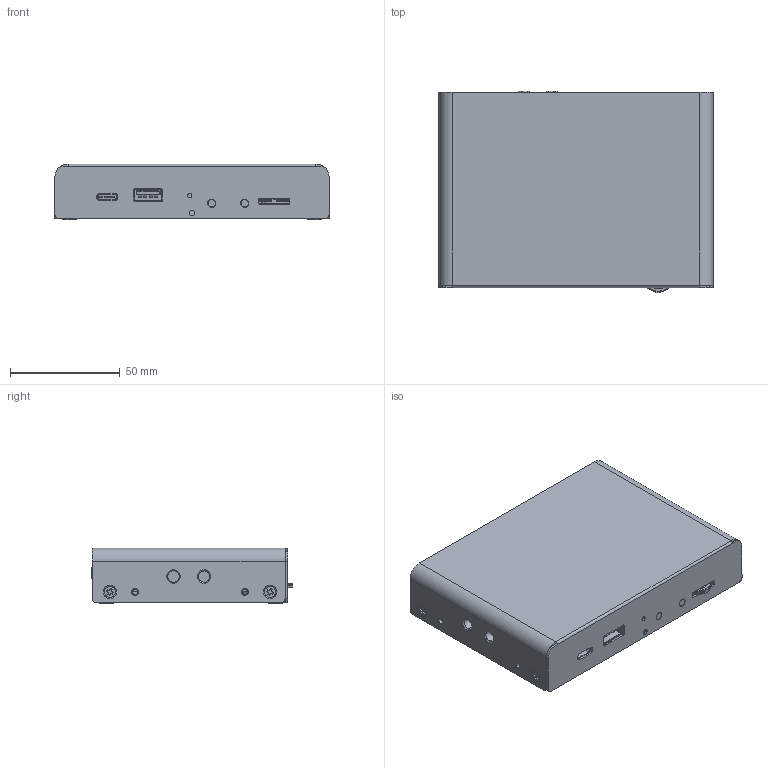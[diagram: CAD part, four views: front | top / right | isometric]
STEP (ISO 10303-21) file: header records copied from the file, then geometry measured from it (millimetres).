
FILE_DESCRIPTION (( 'STEP AP214' ), '1' );
FILE_NAME ('00_ASSY_BODY_OIP-N60D.STEP', '2026-08-26T09:28:07', ( '' ), ( '' ), 'SwSTEP 2.0', 'SolidWorks 2020', '' );
FILE_SCHEMA (( 'AUTOMOTIVE_DESIGN' ));
Length unit declared in the file: millimetre
Products named in the file (32): BOZUO.step; 2_L_ANY; TACT1; USB-TYPE-A; 2_R_ANY; 1_L_ANY; 3_SPACER_ANY; THERMALPAD-24X28X7T-PK404; 1_M_ANY; 4700158-50G-SCREW-M3X4; BOGAIBAN.step; BOKAJIAN.step; PCBA_OIP-N60D-20220715; PJ-0004P-5B-L; _P26-P63-1RG9_1; 2_M_ANY; PRESS-BOTTOM-OIP-N60D; CHENGXINGTANHUANG.step; 4660182-lemb3_5-2-f--h3_5---ky; HTSYM-MTHU27_3D; 4650353-50-PAD-FOOT-DC-F20; 1_R_ANY; 00_ASSY_BODY_OIP-N60D; 13404; HTSYM-MTHU27_3D.step; LED-SMT; PRESS-TOP-OIP-N60D; ABA-HDM-020_ASM; PCB_OIP60; PLASTIC_MAIN_ANY; BONIU.step; SHELL_3NEW_ANY
Assembly tree (53 placements, depth 5):
  00_ASSY_BODY_OIP-N60D
    PRESS-TOP-OIP-N60D
    PRESS-BOTTOM-OIP-N60D
    4660182-lemb3_5-2-f--h3_5---ky  x2
    PCBA_OIP-N60D-20220715
      PCB_OIP60
      HTSYM-MTHU27_3D
        HTSYM-MTHU27_3D.step
          BOKAJIAN.step
          BOZUO.step
          BOGAIBAN.step
          BONIU.step
          CHENGXINGTANHUANG.step
      LED-SMT  x2
      TACT1
      13404
      _P26-P63-1RG9_1
      PJ-0004P-5B-L  x2
      ABA-HDM-020_ASM
        2_L_ANY  x4
        1_L_ANY  x3
        SHELL_3NEW_ANY
        2_R_ANY  x3
        1_M_ANY  x3
        2_M_ANY  x3
        3_SPACER_ANY
        1_R_ANY  x3
        PLASTIC_MAIN_ANY
      USB-TYPE-A
    THERMALPAD-24X28X7T-PK404
    4650353-50-PAD-FOOT-DC-F20  x4
    4700158-50G-SCREW-M3X4  x4
Bounding box: 125 x 91.84 x 25.5 mm (x, y, z)
Volume: 64857.2 mm3; surface area: 101196 mm2
Topology: 56 solids, 56 shells, 4981 faces, 13558 edges, 8763 vertices
Faces by surface type: plane 3114, cylinder 1660, bspline 80, torus 76, cone 49, sphere 2
Entity records: 129561 total; most frequent: CARTESIAN_POINT 27038, ORIENTED_EDGE 21290, DIRECTION 20997, EDGE_CURVE 10645, VECTOR 7533, LINE 7533, VERTEX_POINT 6847, AXIS2_PLACEMENT_3D 6732
